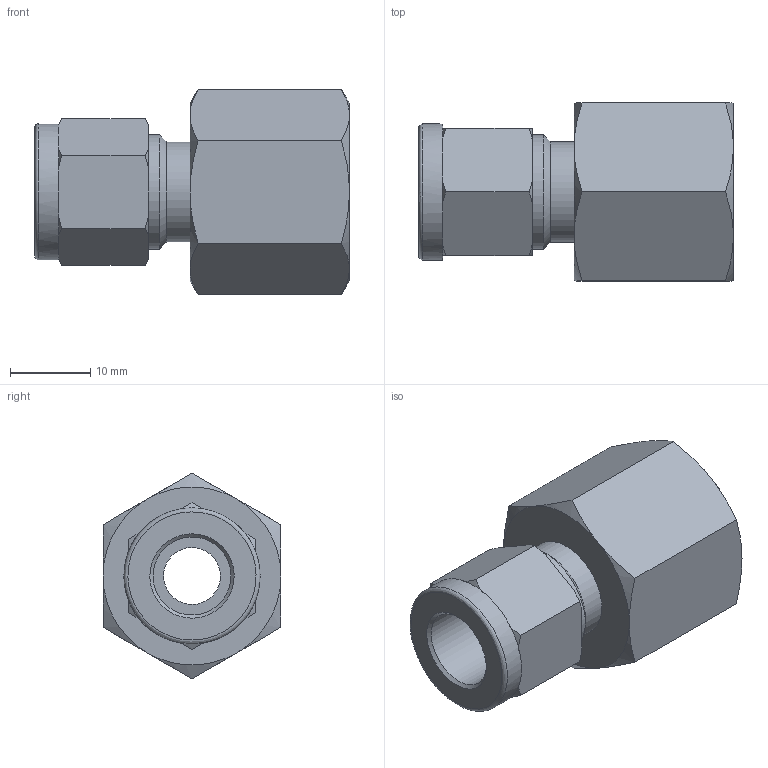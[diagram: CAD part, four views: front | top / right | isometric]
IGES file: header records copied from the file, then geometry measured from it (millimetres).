
Global section: file name: SFC-6-6N; native system: Autodesk Inventor 2016; preprocessor: unknown; author: 배성훈,,11,0; organization: 20151010.052603; date: 20151019.102516; units: millimetre
Bounding box: 39.31 x 22.22 x 25.66 mm (x, y, z)
Volume: 7937.1 mm3; surface area: 4768.1 mm2
Topology: 1 solids, 1 shells, 60 faces, 148 edges, 94 vertices
Faces by surface type: bspline 60
